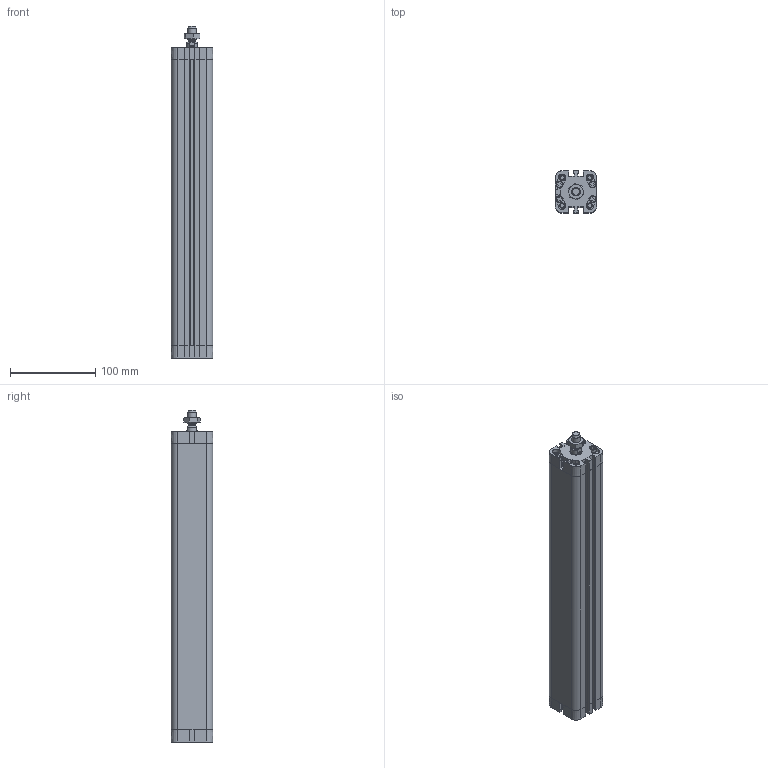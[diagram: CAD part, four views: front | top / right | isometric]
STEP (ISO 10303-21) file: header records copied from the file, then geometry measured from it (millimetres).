
FILE_DESCRIPTION(/* description */ ('Unknown'),/* implementation_level */ '2;1');
FILE_NAME(/* name */ 'ZIF 32_320',/* time_stamp */ '2024-11-12T11:46:59+01:00',/* author */ ('Unknown'),/* organization */ ('HAFNER Pneumatika Kft.'),/* preprocessor_version */ 'ST-DEVELOPER v18.102',/* originating_system */ 'Solid Edge',/* authorisation */ 'Unknown');
FILE_SCHEMA (('AUTOMOTIVE_DESIGN {1 0 10303 214 3 1 1}'));
Length unit declared in the file: millimetre
Products named in the file (6): ZIF 32_320; Kit_1; Kit_2; Profilrohr; Kolbenstange; Mutter
Assembly tree (5 placements, depth 2):
  ZIF 32_320
    Kit_1
    Kit_2
    Profilrohr
    Kolbenstange
    Mutter
Bounding box: 49 x 49 x 389.5 mm (x, y, z)
Volume: 552370.3 mm3; surface area: 162237.8 mm2
Topology: 5 solids, 13 shells, 742 faces, 1922 edges, 1258 vertices
Faces by surface type: plane 347, cylinder 189, bspline 112, torus 48, cone 46
Full cylindrical faces by diameter (mm): 2.5 x2, 4.917 x8, 5.2 x8, 7.5 x8, 7.9 x1, 8.566 x2, 8.647 x1, 9 x1, 10 x1, 12 x1, 12.54 x1, 13.7 x1, 14 x1, 16.32 x1, 16.5 x1, 32 x2
Entity records: 27787 total; most frequent: CARTESIAN_POINT 5913, ORIENTED_EDGE 3606, DIRECTION 3264, EDGE_CURVE 1803, VERTEX_POINT 1231, AXIS2_PLACEMENT_3D 1105, LINE 1054, VECTOR 1054
